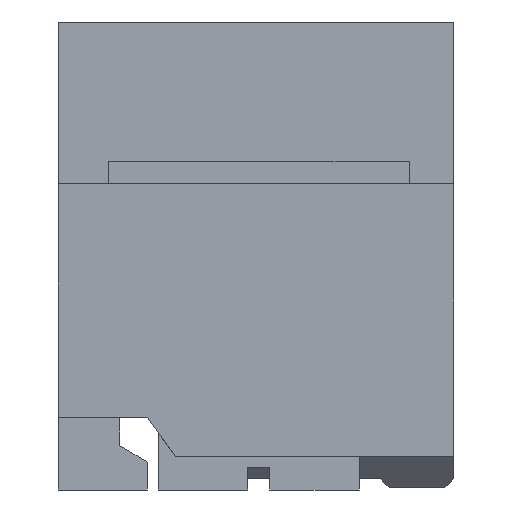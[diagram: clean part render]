
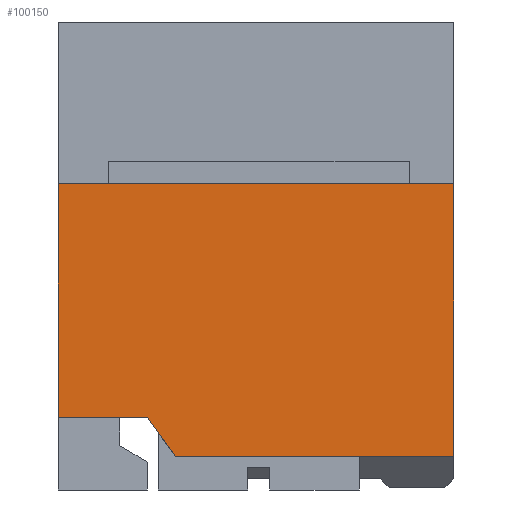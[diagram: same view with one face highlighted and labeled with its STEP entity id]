
A CAD part, left-side view. The second image highlights one B-rep face of the part: STEP entity #100150.
In plain terms, the highlighted planar face has unit normal (-1, 0, 0) as drawn and (1, 0, 0) by its records, which use the part's own axes.
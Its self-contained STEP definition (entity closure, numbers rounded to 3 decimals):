
#47630=CARTESIAN_POINT('',(24.429,2.356,-2.8));
#47640=VERTEX_POINT('',#47630);
#47670=CARTESIAN_POINT('',(24.429,0.,-2.8));
#47680=DIRECTION('',(0.,1.,0.));
#47690=VECTOR('',#47680,1.);
#47700=LINE('',#47670,#47690);
#47710=CARTESIAN_POINT('',(24.429,4.806,-2.8));
#47720=VERTEX_POINT('',#47710);
#47730=EDGE_CURVE('',#47640,#47720,#47700,.T.);
#81980=CARTESIAN_POINT('',(24.429,4.806,0.));
#81990=DIRECTION('',(0.,0.,1.));
#82000=VECTOR('',#81990,1.);
#82010=LINE('',#81980,#82000);
#82020=CARTESIAN_POINT('',(24.429,4.806,0.75));
#82030=VERTEX_POINT('',#82020);
#82040=EDGE_CURVE('',#47720,#82030,#82010,.T.);
#92200=CARTESIAN_POINT('',(24.429,2.356,
-0.305));
#92210=VERTEX_POINT('',#92200);
#92240=CARTESIAN_POINT('',(24.429,2.356,0.));
#92250=DIRECTION('',(0.,0.,1.));
#92260=VECTOR('',#92250,1.);
#92270=LINE('',#92240,#92260);
#92280=EDGE_CURVE('',#47640,#92210,#92270,.T.);
#96210=CARTESIAN_POINT('',(24.429,2.706,0.75));
#96220=VERTEX_POINT('',#96210);
#96250=CARTESIAN_POINT('',(24.429,2.706,0.));
#96260=DIRECTION('',(0.,0.,1.));
#96270=VECTOR('',#96260,1.);
#96280=LINE('',#96250,#96270);
#96290=CARTESIAN_POINT('',(24.429,2.706,
-0.05));
#96300=VERTEX_POINT('',#96290);
#96310=EDGE_CURVE('',#96300,#96220,#96280,.T.);
#98140=CARTESIAN_POINT('',(24.429,0.,-2.018));
#98150=DIRECTION('',(0.,0.809,0.588));
#98160=VECTOR('',#98150,1.);
#98170=LINE('',#98140,#98160);
#98180=EDGE_CURVE('',#92210,#96300,#98170,.T.);
#99970=CARTESIAN_POINT('',(24.429,2.506,-2.8));
#99980=DIRECTION('',(-1.,0.,0.));
#99990=DIRECTION('',(0.,-1.,0.));
#100000=AXIS2_PLACEMENT_3D('',#99970,#99980,#99990);
#100010=PLANE('',#100000);
#100020=ORIENTED_EDGE('',*,*,#82040,.T.);
#100030=ORIENTED_EDGE('',*,*,#47730,.T.);
#100040=ORIENTED_EDGE('',*,*,#92280,.F.);
#100050=ORIENTED_EDGE('',*,*,#98180,.F.);
#100060=ORIENTED_EDGE('',*,*,#96310,.F.);
#100070=CARTESIAN_POINT('',(24.429,0.,0.75));
#100080=DIRECTION('',(0.,1.,0.));
#100090=VECTOR('',#100080,1.);
#100100=LINE('',#100070,#100090);
#100110=EDGE_CURVE('',#96220,#82030,#100100,.T.);
#100120=ORIENTED_EDGE('',*,*,#100110,.F.);
#100130=EDGE_LOOP('',(#100120,#100060,#100050,#100040,#100030,#100020));
#100140=FACE_OUTER_BOUND('',#100130,.T.);
#100150=ADVANCED_FACE('',(#100140),#100010,.F.);
